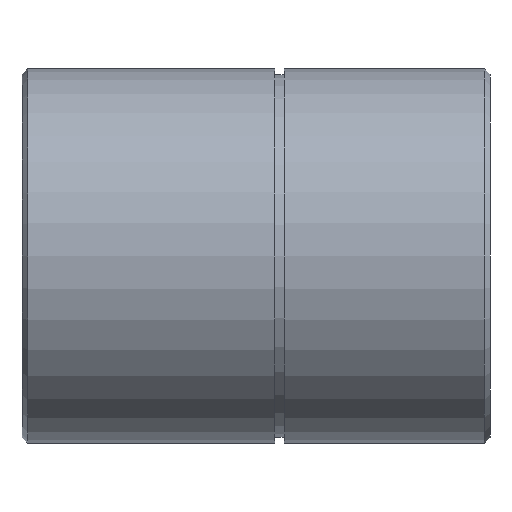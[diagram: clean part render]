
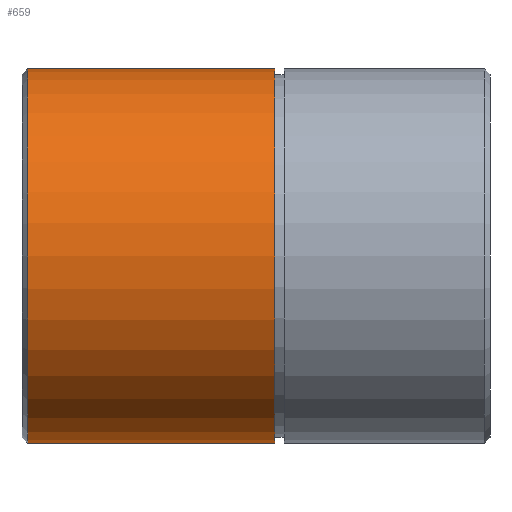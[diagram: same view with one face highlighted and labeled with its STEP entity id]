
A CAD part, left-side view. The second image highlights one B-rep face of the part: STEP entity #659.
In plain terms, the highlighted cylindrical face has radius 10 mm (diameter 20 mm), a partial arc.
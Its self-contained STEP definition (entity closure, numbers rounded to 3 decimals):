
#1 = CARTESIAN_POINT ( 'NONE',  ( 0., 0., -10. ) ) ;
#2 = CYLINDRICAL_SURFACE ( 'NONE', #5, 10. ) ;
#5 = AXIS2_PLACEMENT_3D ( 'NONE', #240, #20, #510 ) ;
#14 = ORIENTED_EDGE ( 'NONE', *, *, #191, .T. ) ;
#20 = DIRECTION ( 'NONE',  ( 0., -1., 0. ) ) ;
#60 = EDGE_CURVE ( 'NONE', #417, #543, #86, .T. ) ;
#63 = EDGE_LOOP ( 'NONE', ( #685, #162, #14, #605 ) ) ;
#77 = LINE ( 'NONE', #1, #619 ) ;
#86 = CIRCLE ( 'NONE', #420, 10. ) ;
#108 = CARTESIAN_POINT ( 'NONE',  ( 0., 24.7, 10. ) ) ;
#115 = DIRECTION ( 'NONE',  ( 0., -1., 0. ) ) ;
#162 = ORIENTED_EDGE ( 'NONE', *, *, #188, .T. ) ;
#169 = DIRECTION ( 'NONE',  ( 0., 0., -1. ) ) ;
#188 = EDGE_CURVE ( 'NONE', #307, #613, #718, .T. ) ;
#191 = EDGE_CURVE ( 'NONE', #613, #543, #77, .T. ) ;
#208 = CARTESIAN_POINT ( 'NONE',  ( 0., 11.5, 0. ) ) ;
#231 = CARTESIAN_POINT ( 'NONE',  ( 0., 24.7, 0. ) ) ;
#240 = CARTESIAN_POINT ( 'NONE',  ( 0., 0., 0. ) ) ;
#246 = EDGE_CURVE ( 'NONE', #307, #417, #635, .T. ) ;
#279 = CARTESIAN_POINT ( 'NONE',  ( 0., 0., 10. ) ) ;
#307 = VERTEX_POINT ( 'NONE', #108 ) ;
#327 = AXIS2_PLACEMENT_3D ( 'NONE', #231, #115, #169 ) ;
#349 = VECTOR ( 'NONE', #378, 1000. ) ;
#377 = DIRECTION ( 'NONE',  ( 0., -1., 0. ) ) ;
#378 = DIRECTION ( 'NONE',  ( 0., -1., 0. ) ) ;
#417 = VERTEX_POINT ( 'NONE', #710 ) ;
#420 = AXIS2_PLACEMENT_3D ( 'NONE', #208, #377, #592 ) ;
#502 = CARTESIAN_POINT ( 'NONE',  ( 0., 11.5, -10. ) ) ;
#510 = DIRECTION ( 'NONE',  ( 0., 0., -1. ) ) ;
#543 = VERTEX_POINT ( 'NONE', #502 ) ;
#546 = DIRECTION ( 'NONE',  ( 0., -1., 0. ) ) ;
#592 = DIRECTION ( 'NONE',  ( 0., 0., -1. ) ) ;
#605 = ORIENTED_EDGE ( 'NONE', *, *, #60, .F. ) ;
#613 = VERTEX_POINT ( 'NONE', #675 ) ;
#619 = VECTOR ( 'NONE', #546, 1000. ) ;
#635 = LINE ( 'NONE', #279, #349 ) ;
#659 = ADVANCED_FACE ( 'NONE', ( #681 ), #2, .T. ) ;
#675 = CARTESIAN_POINT ( 'NONE',  ( 0., 24.7, -10. ) ) ;
#681 = FACE_OUTER_BOUND ( 'NONE', #63, .T. ) ;
#685 = ORIENTED_EDGE ( 'NONE', *, *, #246, .F. ) ;
#710 = CARTESIAN_POINT ( 'NONE',  ( 0., 11.5, 10. ) ) ;
#718 = CIRCLE ( 'NONE', #327, 10. ) ;
